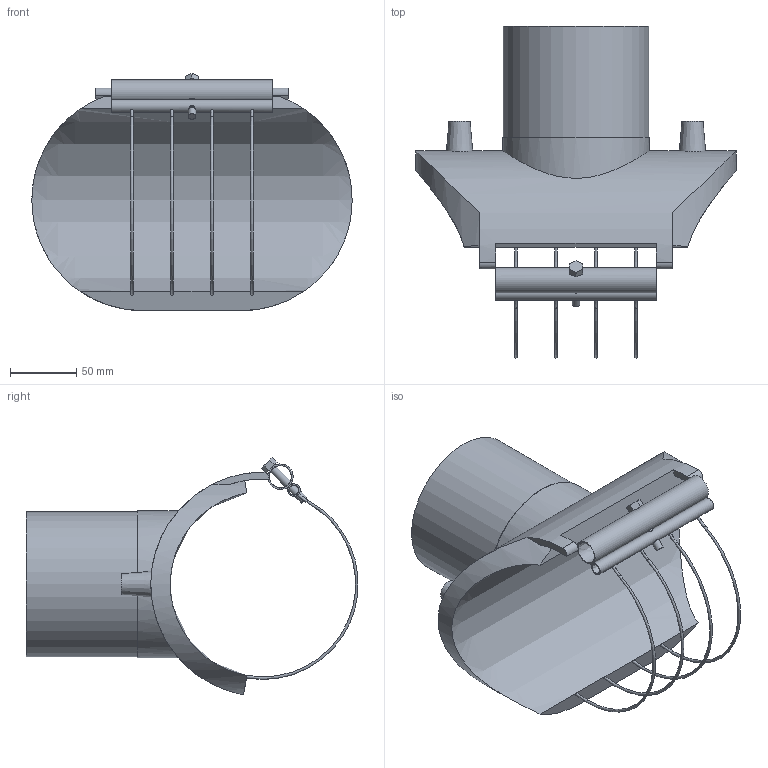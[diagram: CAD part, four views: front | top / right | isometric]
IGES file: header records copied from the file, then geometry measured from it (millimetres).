
Global section: file name: 4958X4140110T.ipt; native system: Autodesk Inventor 2019; preprocessor: unknown; author: KIM; date: 20201215.122038; units: millimetre
Bounding box: 242 x 250.77 x 179.22 mm (x, y, z)
Volume: 1019878.6 mm3; surface area: 199107.1 mm2
Topology: 1 solids, 1 shells, 61 faces, 171 edges, 112 vertices
Faces by surface type: plane 25, cylinder 19, revolution 15, cone 2
Full cylindrical faces by diameter (mm): 6 x3, 9.6 x1, 16 x1, 19.2 x1, 110 x1, 111 x1
